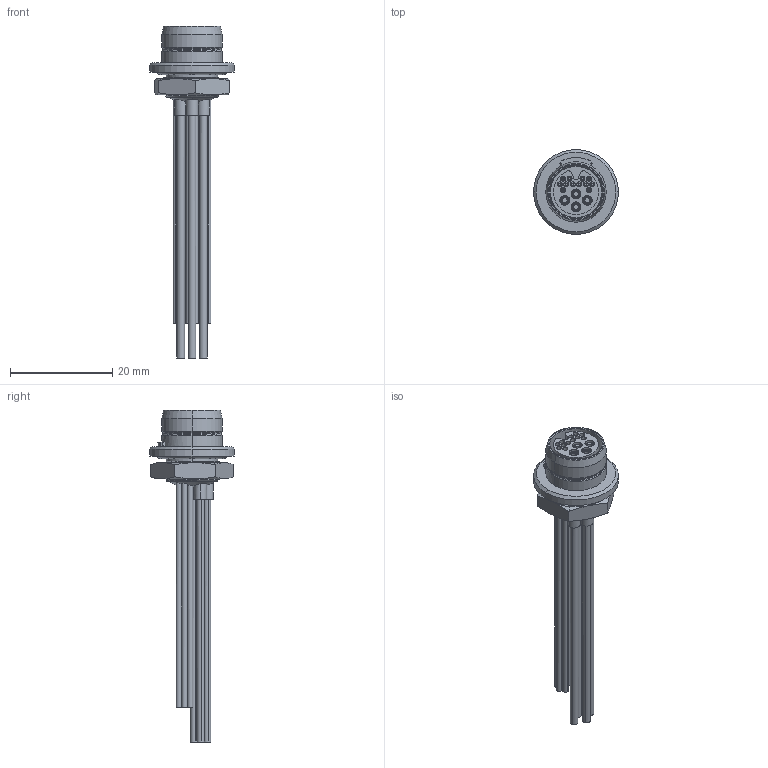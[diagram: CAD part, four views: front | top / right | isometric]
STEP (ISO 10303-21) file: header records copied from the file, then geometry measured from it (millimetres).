
FILE_DESCRIPTION (( 'STEP AP214' ), '1' );
FILE_NAME ('A90149-001 REV B.STEP', '2018-01-25T17:07:21', ( '' ), ( '' ), 'SwSTEP 2.0', 'SolidWorks 2017', '' );
FILE_SCHEMA (( 'AUTOMOTIVE_DESIGN' ));
Length unit declared in the file: inch
Products named in the file (1): A90149-001 REV_A
Bounding box: 16.64 x 16.64 x 65.06 mm (x, y, z)
Volume: 2502.2 mm3; surface area: 5524.7 mm2
Topology: 1 solids, 2 shells, 437 faces, 989 edges, 632 vertices
Faces by surface type: cylinder 221, plane 115, cone 53, bspline 24, torus 16, sphere 8
Entity records: 20854 total; most frequent: CARTESIAN_POINT 11074, DIRECTION 2076, ORIENTED_EDGE 1978, EDGE_CURVE 989, AXIS2_PLACEMENT_3D 885, VERTEX_POINT 632, EDGE_LOOP 527, CIRCLE 471
